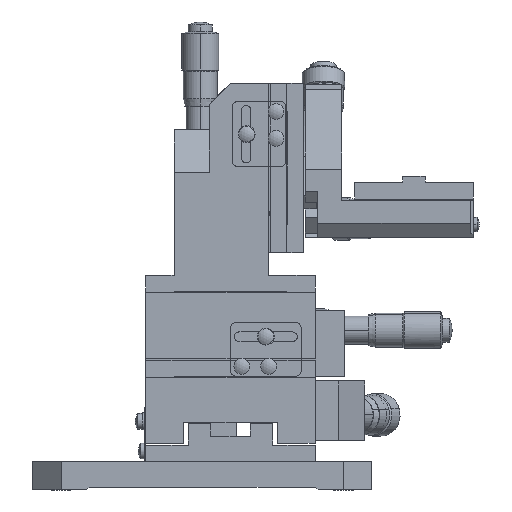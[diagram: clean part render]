
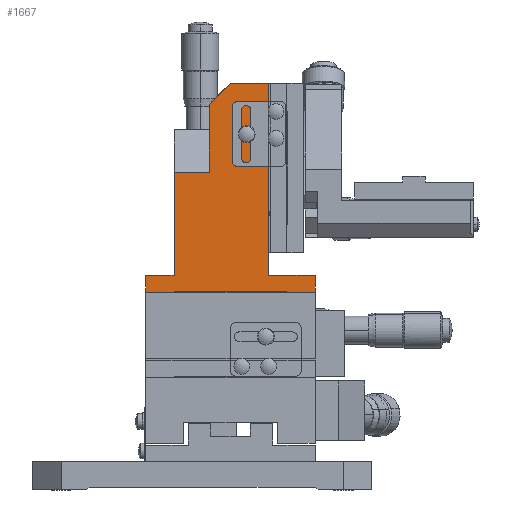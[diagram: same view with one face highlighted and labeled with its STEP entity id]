
A CAD part, left-side view. The second image highlights one B-rep face of the part: STEP entity #1667.
In plain terms, the highlighted planar face has unit normal (-1, 0, 0).
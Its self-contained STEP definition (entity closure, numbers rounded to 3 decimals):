
#1667=ADVANCED_FACE('',(#3461,#3462),#3463,.T.);
#3461=FACE_OUTER_BOUND('',#5923,.T.);
#3462=FACE_BOUND('',#5924,.T.);
#3463=PLANE('',#5925);
#5923=EDGE_LOOP('',(#11728,#11729,#11730,#11731,#11732,#11733,#11734,#11735,#11736,#11737,#11738,#11739,#11740,#11741,#11742));
#5924=EDGE_LOOP('',(#11743,#11744));
#5925=AXIS2_PLACEMENT_3D('',#11745,#11746,#11747);
#11728=ORIENTED_EDGE('',*,*,#16730,.T.);
#11729=ORIENTED_EDGE('',*,*,#16750,.F.);
#11730=ORIENTED_EDGE('',*,*,#16773,.F.);
#11731=ORIENTED_EDGE('',*,*,#16790,.T.);
#11732=ORIENTED_EDGE('',*,*,#16662,.F.);
#11733=ORIENTED_EDGE('',*,*,#16743,.T.);
#11734=ORIENTED_EDGE('',*,*,#16791,.T.);
#11735=ORIENTED_EDGE('',*,*,#16778,.T.);
#11736=ORIENTED_EDGE('',*,*,#16787,.T.);
#11737=ORIENTED_EDGE('',*,*,#16761,.F.);
#11738=ORIENTED_EDGE('',*,*,#16792,.T.);
#11739=ORIENTED_EDGE('',*,*,#16703,.F.);
#11740=ORIENTED_EDGE('',*,*,#16717,.T.);
#11741=ORIENTED_EDGE('',*,*,#16659,.F.);
#11742=ORIENTED_EDGE('',*,*,#16789,.T.);
#11743=ORIENTED_EDGE('',*,*,#16755,.T.);
#11744=ORIENTED_EDGE('',*,*,#16599,.T.);
#11745=CARTESIAN_POINT('',(0.02,50.,70.));
#11746=DIRECTION('',(-1.0,0.,0.0));
#11747=DIRECTION('',(0.0,0.0,1.0));
#16599=EDGE_CURVE('',#20030,#20034,#20036,.T.);
#16659=EDGE_CURVE('',#20144,#20146,#20147,.T.);
#16662=EDGE_CURVE('',#20149,#20152,#20153,.T.);
#16703=EDGE_CURVE('',#20223,#20225,#20226,.T.);
#16717=EDGE_CURVE('',#20223,#20146,#20248,.T.);
#16730=EDGE_CURVE('',#20258,#20264,#20266,.T.);
#16743=EDGE_CURVE('',#20149,#20284,#20286,.T.);
#16750=EDGE_CURVE('',#20295,#20264,#20296,.T.);
#16755=EDGE_CURVE('',#20034,#20030,#20302,.T.);
#16761=EDGE_CURVE('',#20307,#20309,#20310,.T.);
#16773=EDGE_CURVE('',#20328,#20295,#20329,.T.);
#16778=EDGE_CURVE('',#20336,#20334,#20337,.T.);
#16787=EDGE_CURVE('',#20334,#20309,#20348,.T.);
#16789=EDGE_CURVE('',#20144,#20258,#20350,.T.);
#16790=EDGE_CURVE('',#20328,#20152,#20351,.T.);
#16791=EDGE_CURVE('',#20284,#20336,#20352,.T.);
#16792=EDGE_CURVE('',#20307,#20225,#20353,.T.);
#20030=VERTEX_POINT('',#25073);
#20034=VERTEX_POINT('',#25078);
#20036=CIRCLE('',#25081,1.5);
#20144=VERTEX_POINT('',#25226);
#20146=VERTEX_POINT('',#25229);
#20147=LINE('',#25230,#25231);
#20149=VERTEX_POINT('',#25234);
#20152=VERTEX_POINT('',#25238);
#20153=LINE('',#25239,#25240);
#20223=VERTEX_POINT('',#25345);
#20225=VERTEX_POINT('',#25348);
#20226=LINE('',#25349,#25350);
#20248=LINE('',#25393,#25394);
#20258=VERTEX_POINT('',#25410);
#20264=VERTEX_POINT('',#25419);
#20266=LINE('',#25422,#25423);
#20284=VERTEX_POINT('',#25451);
#20286=LINE('',#25454,#25455);
#20295=VERTEX_POINT('',#25470);
#20296=LINE('',#25471,#25472);
#20302=CIRCLE('',#25481,1.5);
#20307=VERTEX_POINT('',#25487);
#20309=VERTEX_POINT('',#25490);
#20310=LINE('',#25491,#25492);
#20328=VERTEX_POINT('',#25519);
#20329=LINE('',#25520,#25521);
#20334=VERTEX_POINT('',#25529);
#20336=VERTEX_POINT('',#25532);
#20337=LINE('',#25533,#25534);
#20348=LINE('',#25552,#25553);
#20350=LINE('',#25555,#25556);
#20351=LINE('',#25557,#25558);
#20352=LINE('',#25559,#25560);
#20353=LINE('',#25561,#25562);
#25073=CARTESIAN_POINT('',(0.02,44.3,124.5));
#25078=CARTESIAN_POINT('',(0.02,44.3,127.5));
#25081=AXIS2_PLACEMENT_3D('',#30661,#30662,#30663);
#25226=CARTESIAN_POINT('',(0.02,57.5,112.5));
#25229=CARTESIAN_POINT('',(0.02,57.5,136.5));
#25230=CARTESIAN_POINT('',(0.02,57.5,110.));
#25231=VECTOR('',#30765,1000.0);
#25234=CARTESIAN_POINT('',(0.02,70.,70.2));
#25238=CARTESIAN_POINT('',(0.02,70.,70.));
#25239=CARTESIAN_POINT('',(0.02,70.,84.342));
#25240=VECTOR('',#30768,1000.0);
#25345=CARTESIAN_POINT('',(0.02,50.,144.));
#25348=CARTESIAN_POINT('',(0.02,36.5,144.));
#25349=CARTESIAN_POINT('',(0.02,57.5,144.));
#25350=VECTOR('',#30817,1000.0);
#25393=CARTESIAN_POINT('',(0.02,50.,144.));
#25394=VECTOR('',#30832,1000.0);
#25410=CARTESIAN_POINT('',(0.02,70.,112.5));
#25419=CARTESIAN_POINT('',(0.02,70.,76.));
#25422=CARTESIAN_POINT('',(0.02,70.,101.75));
#25423=VECTOR('',#30849,1000.0);
#25451=CARTESIAN_POINT('',(0.02,30.,70.2));
#25454=CARTESIAN_POINT('',(0.02,50.,70.2));
#25455=VECTOR('',#30864,1000.0);
#25470=CARTESIAN_POINT('',(0.02,80.,76.));
#25471=CARTESIAN_POINT('',(0.02,50.,76.));
#25472=VECTOR('',#30871,1000.0);
#25481=AXIS2_PLACEMENT_3D('',#30878,#30879,#30880);
#25487=CARTESIAN_POINT('',(0.02,36.5,76.));
#25490=CARTESIAN_POINT('',(0.02,20.,76.));
#25491=CARTESIAN_POINT('',(0.02,50.,76.));
#25492=VECTOR('',#30892,1000.0);
#25519=CARTESIAN_POINT('',(0.02,80.,70.));
#25520=CARTESIAN_POINT('',(0.02,80.,70.));
#25521=VECTOR('',#30908,1000.0);
#25529=CARTESIAN_POINT('',(0.02,20.,70.));
#25532=CARTESIAN_POINT('',(0.02,30.,70.));
#25533=CARTESIAN_POINT('',(0.02,50.,70.));
#25534=VECTOR('',#30913,1000.0);
#25552=CARTESIAN_POINT('',(0.02,20.,70.));
#25553=VECTOR('',#30924,1000.0);
#25555=CARTESIAN_POINT('',(0.02,57.5,112.5));
#25556=VECTOR('',#30928,1000.0);
#25557=CARTESIAN_POINT('',(0.02,50.,70.));
#25558=VECTOR('',#30929,1000.0);
#25559=CARTESIAN_POINT('',(0.02,30.,84.342));
#25560=VECTOR('',#30930,1000.0);
#25561=CARTESIAN_POINT('',(0.02,36.5,110.));
#25562=VECTOR('',#30931,1000.0);
#30661=CARTESIAN_POINT('',(0.02,44.3,126.));
#30662=DIRECTION('',(1.0,0.,0.0));
#30663=DIRECTION('',(0.,-1.0,0.0));
#30765=DIRECTION('',(0.0,0.0,1.0));
#30768=DIRECTION('',(0.0,0.0,-1.0));
#30817=DIRECTION('',(0.,-1.0,0.0));
#30832=DIRECTION('',(0.,0.707,-0.707));
#30849=DIRECTION('',(0.,0.,-1.0));
#30864=DIRECTION('',(0.,-1.0,0.0));
#30871=DIRECTION('',(0.,-1.0,0.0));
#30878=CARTESIAN_POINT('',(0.02,44.3,126.));
#30879=DIRECTION('',(1.0,0.,0.0));
#30880=DIRECTION('',(0.,-1.0,0.0));
#30892=DIRECTION('',(0.,-1.0,0.0));
#30908=DIRECTION('',(0.0,0.0,1.0));
#30913=DIRECTION('',(0.,-1.0,0.0));
#30924=DIRECTION('',(0.0,0.0,1.0));
#30928=DIRECTION('',(0.,1.0,0.));
#30929=DIRECTION('',(0.,-1.0,0.0));
#30930=DIRECTION('',(0.0,0.0,-1.0));
#30931=DIRECTION('',(0.0,0.0,1.0));
